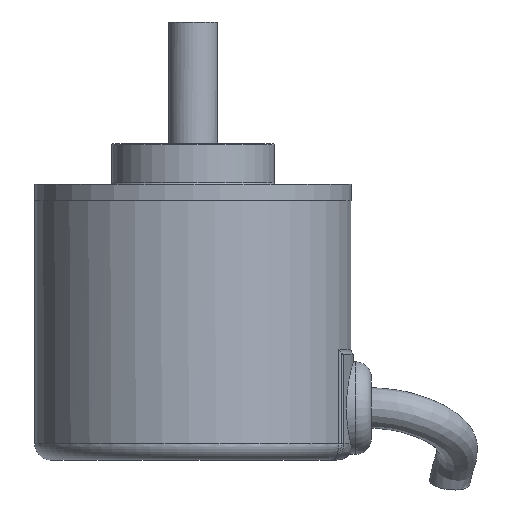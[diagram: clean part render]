
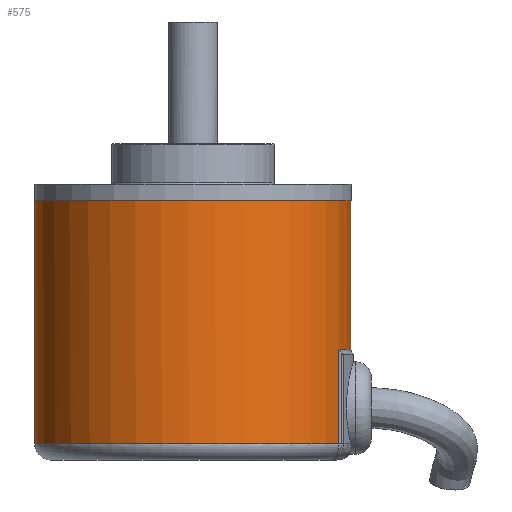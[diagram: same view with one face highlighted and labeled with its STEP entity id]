
A CAD part, left-side view. The second image highlights one B-rep face of the part: STEP entity #575.
In plain terms, the highlighted cylindrical face has radius 19.5 mm (diameter 39 mm), a full revolution.
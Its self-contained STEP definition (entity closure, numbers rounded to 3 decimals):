
#479=FACE_BOUND('',#704,.T.);
#480=FACE_BOUND('',#705,.T.);
#575=ADVANCED_FACE('',(#479,#480),#642,.T.);
#642=CYLINDRICAL_SURFACE('',#1406,19.5);
#704=EDGE_LOOP('',(#892));
#705=EDGE_LOOP('',(#893,#894,#895,#896));
#832=LINE('',#1902,#854);
#833=LINE('',#1906,#855);
#854=VECTOR('',#1533,1.);
#855=VECTOR('',#1536,1.);
#892=ORIENTED_EDGE('',*,*,#1173,.T.);
#893=ORIENTED_EDGE('',*,*,#1174,.T.);
#894=ORIENTED_EDGE('',*,*,#1175,.T.);
#895=ORIENTED_EDGE('',*,*,#1176,.T.);
#896=ORIENTED_EDGE('',*,*,#1177,.T.);
#1092=VERTEX_POINT('',#1898);
#1093=VERTEX_POINT('',#1900);
#1094=VERTEX_POINT('',#1901);
#1095=VERTEX_POINT('',#1903);
#1096=VERTEX_POINT('',#1905);
#1173=EDGE_CURVE('',#1092,#1092,#1264,.T.);
#1174=EDGE_CURVE('',#1093,#1094,#1265,.T.);
#1175=EDGE_CURVE('',#1094,#1095,#832,.T.);
#1176=EDGE_CURVE('',#1095,#1096,#1266,.T.);
#1177=EDGE_CURVE('',#1096,#1093,#833,.T.);
#1264=CIRCLE('',#1403,19.5);
#1265=CIRCLE('',#1404,19.5);
#1266=CIRCLE('',#1405,19.5);
#1403=AXIS2_PLACEMENT_3D('',#1897,#1529,#1530);
#1404=AXIS2_PLACEMENT_3D('',#1899,#1531,#1532);
#1405=AXIS2_PLACEMENT_3D('',#1904,#1534,#1535);
#1406=AXIS2_PLACEMENT_3D('',#1907,#1537,#1538);
#1529=DIRECTION('',(0.,0.,-1.));
#1530=DIRECTION('',(1.,0.,0.));
#1531=DIRECTION('',(0.,0.,1.));
#1532=DIRECTION('',(-1.,0.,0.));
#1533=DIRECTION('',(0.,0.,-1.));
#1534=DIRECTION('',(0.,0.,1.));
#1535=DIRECTION('',(-1.,0.,0.));
#1536=DIRECTION('',(0.,0.,1.));
#1537=DIRECTION('',(0.,0.,-1.));
#1538=DIRECTION('',(-1.,0.,0.));
#1897=CARTESIAN_POINT('',(0.,0.,32.));
#1898=CARTESIAN_POINT('',(19.5,0.,32.));
#1899=CARTESIAN_POINT('',(0.,0.,13.661));
#1900=CARTESIAN_POINT('',(-7.507,-17.997,13.661));
#1901=CARTESIAN_POINT('',(7.507,-17.997,13.661));
#1902=CARTESIAN_POINT('',(7.507,-17.997,32.));
#1903=CARTESIAN_POINT('',(7.507,-17.997,2.));
#1904=CARTESIAN_POINT('',(0.,0.,2.));
#1905=CARTESIAN_POINT('',(-7.507,-17.997,2.));
#1906=CARTESIAN_POINT('',(-7.507,-17.997,32.));
#1907=CARTESIAN_POINT('',(0.,0.,32.));
